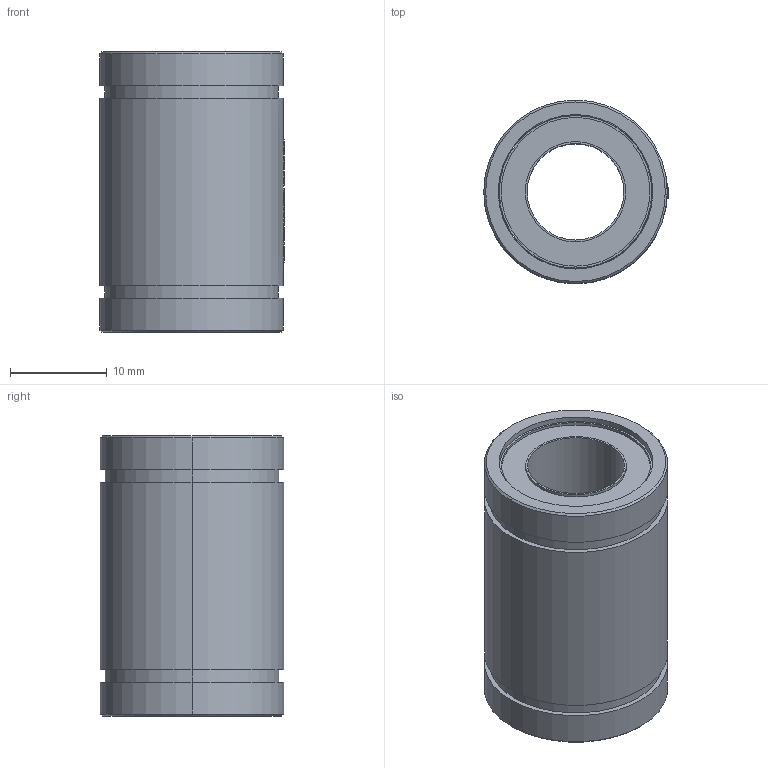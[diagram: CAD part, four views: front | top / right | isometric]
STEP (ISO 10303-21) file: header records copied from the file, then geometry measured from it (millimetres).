
FILE_DESCRIPTION (( 'STEP AP214' ), '1' );
FILE_NAME ('LM10UU.STEP', '2020-09-15T05:41:04', ( '' ), ( '' ), 'SwSTEP 2.0', 'SolidWorks 2018', '' );
FILE_SCHEMA (( 'AUTOMOTIVE_DESIGN' ));
Length unit declared in the file: millimetre
Products named in the file (3): LM10UU-2; LM10UU-1; LM10UU
Assembly tree (2 placements, depth 2):
  LM10UU
    LM10UU-1
    LM10UU-2
Bounding box: 19.1 x 19 x 29 mm (x, y, z)
Volume: 5544.1 mm3; surface area: 6007.5 mm2
Topology: 2 solids, 2 shells, 228 faces, 635 edges, 422 vertices
Faces by surface type: plane 115, cylinder 71, bspline 38, cone 4
Entity records: 9320 total; most frequent: CARTESIAN_POINT 3752, ORIENTED_EDGE 1270, DIRECTION 797, EDGE_CURVE 635, VERTEX_POINT 422, LINE 303, VECTOR 303, AXIS2_PLACEMENT_3D 247
